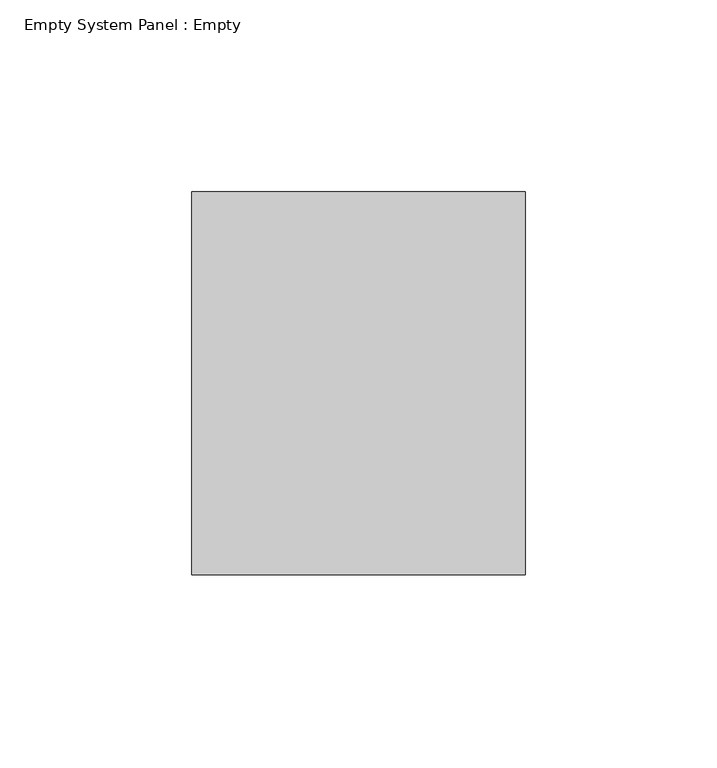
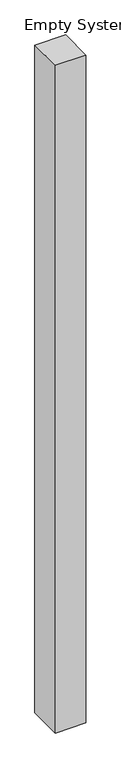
"""IFC4 building model written with IfcOpenShell, lengths in millimetres: plate geometry, Empty System Panel : Empty."""

from ifc_helpers import new_model, si_unit, origin, origin_with_axes, place, context, project, spatial, polyline, outline, extrude, source, transform, mapped, element, save


def empty_system_panel_empty_b0df5d9c(model_context):
    return source(origin(), model_context, "Body", "SweptSolid", [
        extrude(outline(polyline([(43.5, -50.0), (-43.5, -50.0), (-43.5, 50.0), (43.5, 50.0), (43.5, -50.0)])), origin_with_axes(), (0.0, 0.0, 1.0), 2000.0),
    ])


if __name__ == "__main__":
    model = new_model("IFC4")
    model_context = context("Model", 3, world=origin())
    ifc_project = project(units=[si_unit("LENGTHUNIT", "METRE", prefix="MILLI")], contexts=[model_context])
    site = spatial("IfcSite", under=ifc_project)
    building = spatial("IfcBuilding", under=site)
    placement = place(None, origin())
    empty_system_panel_empty_shape = empty_system_panel_empty_b0df5d9c(model_context)
    element("IfcPlate", 1, ObjectType="Empty System Panel : Empty", at=placement, inside=building, context=model_context, shape_type="MappedRepresentation", body=[
        mapped(empty_system_panel_empty_shape, transform((0.0, 0.0, 0.0), x_axis=(1.0, 0.0, 0.0), y_axis=(0.0, 1.0, 0.0), z_axis=(0.0, 0.0, 1.0))),
    ])
    save(model, "model.ifc")
